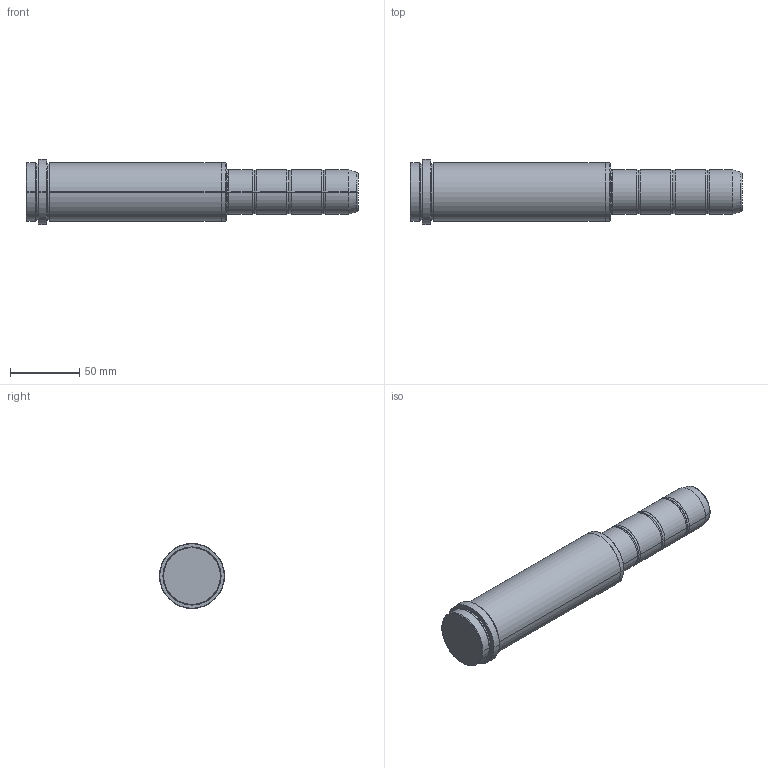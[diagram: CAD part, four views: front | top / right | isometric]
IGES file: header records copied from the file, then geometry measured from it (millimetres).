
Start section: SolidWorks IGES file using analytic representation for surfaces
Global section: file name: C:\Users\Ryan\Documents\PCS\Metric DIN Guide Pins - With Collar\GDP-EC-32\GDP-EC-32-136-095.igs; native system: SolidWorks 2009; preprocessor: SolidWorks 2009; author: Ryan; date: 151205.112409; units: millimetre
Bounding box: 240 x 47 x 47 mm (x, y, z)
Surface area: 32061.9 mm2 (no closed solid volume)
Topology: 0 solids, 0 shells, 64 faces, 1088 edges, 1088 vertices
Faces by surface type: bspline 34, revolution 30
